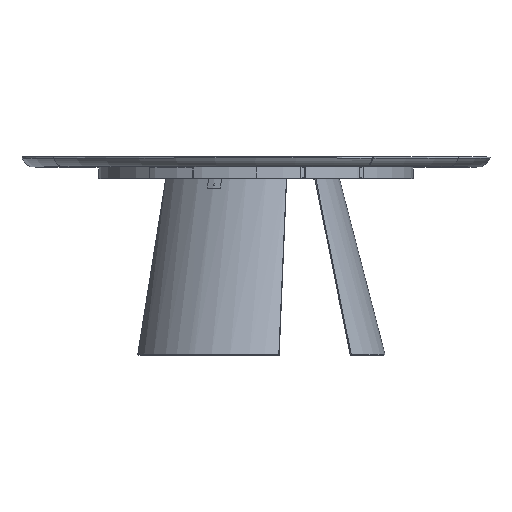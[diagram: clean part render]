
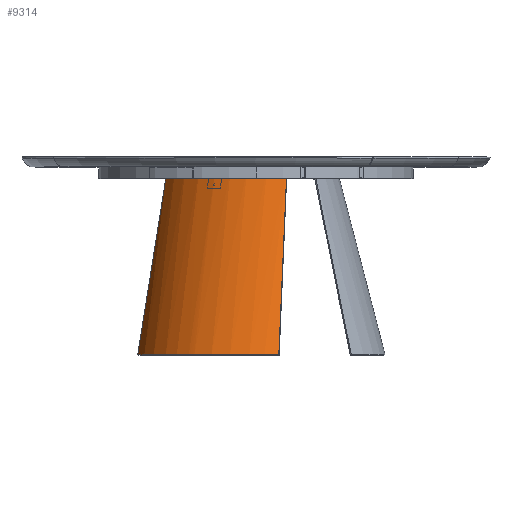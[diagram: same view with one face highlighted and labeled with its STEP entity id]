
A CAD part, top view. The second image highlights one B-rep face of the part: STEP entity #9314.
In plain terms, the highlighted cylindrical face has radius 455 mm (diameter 910 mm), a partial arc.
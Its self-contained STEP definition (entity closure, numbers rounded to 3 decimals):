
#113 =( BOUNDED_CURVE ( )  B_SPLINE_CURVE ( 3, ( #1753, #10820, #2026, #19329 ),
 .UNSPECIFIED., .F., .F. ) 
 B_SPLINE_CURVE_WITH_KNOTS ( ( 4, 4 ),
 ( 0.027, 0.762 ),
 .UNSPECIFIED. ) 
 CURVE ( )  GEOMETRIC_REPRESENTATION_ITEM ( )  RATIONAL_B_SPLINE_CURVE ( ( 1., 0.955, 0.955, 1. ) ) 
 REPRESENTATION_ITEM ( '' )  );
#1608 = CARTESIAN_POINT ( 'NONE',  ( -96.167, 720., -186.04 ) ) ;
#1705 = CARTESIAN_POINT ( 'NONE',  ( 12.104, 1.251, -0.325 ) ) ;
#1753 = CARTESIAN_POINT ( 'NONE',  ( 12.104, 1.251, -0.325 ) ) ;
#2026 = CARTESIAN_POINT ( 'NONE',  ( 231.469, 1.123, -48.677 ) ) ;
#2314 = CARTESIAN_POINT ( 'NONE',  ( 0., 690.447, -648.367 ) ) ;
#3062 = CIRCLE ( 'NONE', #23965, 455. ) ;
#3714 =( BOUNDED_CURVE ( )  B_SPLINE_CURVE ( 3, ( #3789, #23281, #18563, #27045 ),
 .UNSPECIFIED., .F., .T. ) 
 B_SPLINE_CURVE_WITH_KNOTS ( ( 4, 4 ),
 ( 1.582, 1.719 ),
 .UNSPECIFIED. ) 
 CURVE ( )  GEOMETRIC_REPRESENTATION_ITEM ( )  RATIONAL_B_SPLINE_CURVE ( ( 1., 0.998, 0.998, 1. ) ) 
 REPRESENTATION_ITEM ( '' )  );
#3789 = CARTESIAN_POINT ( 'NONE',  ( 314.022, 0.906, -129.942 ) ) ;
#3930 = CARTESIAN_POINT ( 'NONE',  ( 0., -112.631, -440.677 ) ) ;
#4595 =( BOUNDED_CURVE ( )  B_SPLINE_CURVE ( 3, ( #19516, #23828, #19103, #8934 ),
 .UNSPECIFIED., .F., .F. ) 
 B_SPLINE_CURVE_WITH_KNOTS ( ( 4, 4 ),
 ( 1.582, 1.719 ),
 .UNSPECIFIED. ) 
 CURVE ( )  GEOMETRIC_REPRESENTATION_ITEM ( )  RATIONAL_B_SPLINE_CURVE ( ( 1., 0.998, 0.998, 1. ) ) 
 REPRESENTATION_ITEM ( '' )  );
#5693 = CARTESIAN_POINT ( 'NONE',  ( 0., 720., -186.04 ) ) ;
#5897 = DIRECTION ( 'NONE',  ( 0., -0.968, 0.25 ) ) ;
#6207 = CARTESIAN_POINT ( 'NONE',  ( 96.167, 720., -186.04 ) ) ;
#7032 = ORIENTED_EDGE ( 'NONE', *, *, #15682, .F. ) ;
#7717 = DIRECTION ( 'NONE',  ( -1., 0., 0. ) ) ;
#8052 = CARTESIAN_POINT ( 'NONE',  ( -265.753, 720., -274.535 ) ) ;
#8934 = CARTESIAN_POINT ( 'NONE',  ( -265.753, 720., -274.535 ) ) ;
#9314 = ADVANCED_FACE ( 'NONE', ( #25717 ), #17226, .T. ) ;
#9377 = ORIENTED_EDGE ( 'NONE', *, *, #20373, .T. ) ;
#10128 = CARTESIAN_POINT ( 'NONE',  ( -187.694, 720., -216.518 ) ) ;
#10161 = EDGE_CURVE ( 'NONE', #25891, #14693, #3062, .T. ) ;
#10218 = ORIENTED_EDGE ( 'NONE', *, *, #26601, .T. ) ;
#10521 = CARTESIAN_POINT ( 'NONE',  ( 187.694, 720., -216.518 ) ) ;
#10820 = CARTESIAN_POINT ( 'NONE',  ( 126.14, 1.243, -3.458 ) ) ;
#11529 =( BOUNDED_CURVE ( )  B_SPLINE_CURVE ( 3, ( #22807, #1608, #10128, #8052 ),
 .UNSPECIFIED., .F., .F. ) 
 B_SPLINE_CURVE_WITH_KNOTS ( ( 4, 4 ),
 ( 0., 0.624 ),
 .UNSPECIFIED. ) 
 CURVE ( )  GEOMETRIC_REPRESENTATION_ITEM ( )  RATIONAL_B_SPLINE_CURVE ( ( 1., 0.968, 0.968, 1. ) ) 
 REPRESENTATION_ITEM ( '' )  );
#11642 = ORIENTED_EDGE ( 'NONE', *, *, #25527, .T. ) ;
#11992 = AXIS2_PLACEMENT_3D ( 'NONE', #2314, #23496, #21554 ) ;
#12144 = ORIENTED_EDGE ( 'NONE', *, *, #18722, .T. ) ;
#12382 = VERTEX_POINT ( 'NONE', #15795 ) ;
#12866 = VERTEX_POINT ( 'NONE', #19671 ) ;
#12966 = VERTEX_POINT ( 'NONE', #26600 ) ;
#13502 =( BOUNDED_CURVE ( )  B_SPLINE_CURVE ( 3, ( #15295, #24727, #22511, #26958 ),
 .UNSPECIFIED., .F., .F. ) 
 B_SPLINE_CURVE_WITH_KNOTS ( ( 4, 4 ),
 ( 5.521, 6.257 ),
 .UNSPECIFIED. ) 
 CURVE ( )  GEOMETRIC_REPRESENTATION_ITEM ( )  RATIONAL_B_SPLINE_CURVE ( ( 1., 0.955, 0.955, 1. ) ) 
 REPRESENTATION_ITEM ( '' )  );
#14350 = ORIENTED_EDGE ( 'NONE', *, *, #10161, .F. ) ;
#14616 = CARTESIAN_POINT ( 'NONE',  ( -12.104, 1.251, -0.325 ) ) ;
#14693 = VERTEX_POINT ( 'NONE', #14616 ) ;
#15295 = CARTESIAN_POINT ( 'NONE',  ( -314.022, 0.906, -129.942 ) ) ;
#15682 = EDGE_CURVE ( 'NONE', #12966, #20388, #4595, .T. ) ;
#15795 = CARTESIAN_POINT ( 'NONE',  ( 265.753, 720., -274.535 ) ) ;
#16163 = ORIENTED_EDGE ( 'NONE', *, *, #17470, .T. ) ;
#17062 = CARTESIAN_POINT ( 'NONE',  ( 265.753, 720., -274.535 ) ) ;
#17226 = CYLINDRICAL_SURFACE ( 'NONE', #11992, 455. ) ;
#17470 = EDGE_CURVE ( 'NONE', #25891, #12866, #113, .T. ) ;
#18563 = CARTESIAN_POINT ( 'NONE',  ( 282.752, 482.074, -225.637 ) ) ;
#18722 = EDGE_CURVE ( 'NONE', #12966, #14693, #13502, .T. ) ;
#19103 = CARTESIAN_POINT ( 'NONE',  ( -282.752, 482.074, -225.637 ) ) ;
#19329 = CARTESIAN_POINT ( 'NONE',  ( 314.022, 0.906, -129.942 ) ) ;
#19516 = CARTESIAN_POINT ( 'NONE',  ( -314.022, 0.906, -129.942 ) ) ;
#19671 = CARTESIAN_POINT ( 'NONE',  ( 314.022, 0.906, -129.942 ) ) ;
#20373 = EDGE_CURVE ( 'NONE', #12382, #21632, #26818, .T. ) ;
#20388 = VERTEX_POINT ( 'NONE', #20970 ) ;
#20944 = EDGE_LOOP ( 'NONE', ( #9377, #11642, #7032, #12144, #14350, #16163, #10218 ) ) ;
#20970 = CARTESIAN_POINT ( 'NONE',  ( -265.753, 720., -274.535 ) ) ;
#21554 = DIRECTION ( 'NONE',  ( 0., -0.25, -0.968 ) ) ;
#21632 = VERTEX_POINT ( 'NONE', #5693 ) ;
#22511 = CARTESIAN_POINT ( 'NONE',  ( -126.14, 1.243, -3.458 ) ) ;
#22807 = CARTESIAN_POINT ( 'NONE',  ( 0., 720., -186.04 ) ) ;
#23281 = CARTESIAN_POINT ( 'NONE',  ( 298.867, 241.995, -177.363 ) ) ;
#23496 = DIRECTION ( 'NONE',  ( 0., -0.968, 0.25 ) ) ;
#23828 = CARTESIAN_POINT ( 'NONE',  ( -298.867, 241.995, -177.363 ) ) ;
#23965 = AXIS2_PLACEMENT_3D ( 'NONE', #3930, #5897, #7717 ) ;
#24727 = CARTESIAN_POINT ( 'NONE',  ( -231.469, 1.123, -48.677 ) ) ;
#25527 = EDGE_CURVE ( 'NONE', #21632, #20388, #11529, .T. ) ;
#25717 = FACE_OUTER_BOUND ( 'NONE', #20944, .T. ) ;
#25891 = VERTEX_POINT ( 'NONE', #1705 ) ;
#26600 = CARTESIAN_POINT ( 'NONE',  ( -314.022, 0.906, -129.942 ) ) ;
#26601 = EDGE_CURVE ( 'NONE', #12866, #12382, #3714, .T. ) ;
#26818 =( BOUNDED_CURVE ( )  B_SPLINE_CURVE ( 3, ( #17062, #10521, #6207, #27500 ),
 .UNSPECIFIED., .F., .F. ) 
 B_SPLINE_CURVE_WITH_KNOTS ( ( 4, 4 ),
 ( 5.659, 6.283 ),
 .UNSPECIFIED. ) 
 CURVE ( )  GEOMETRIC_REPRESENTATION_ITEM ( )  RATIONAL_B_SPLINE_CURVE ( ( 1., 0.968, 0.968, 1. ) ) 
 REPRESENTATION_ITEM ( '' )  );
#26958 = CARTESIAN_POINT ( 'NONE',  ( -12.104, 1.251, -0.325 ) ) ;
#27045 = CARTESIAN_POINT ( 'NONE',  ( 265.753, 720., -274.535 ) ) ;
#27500 = CARTESIAN_POINT ( 'NONE',  ( 0., 720., -186.04 ) ) ;
